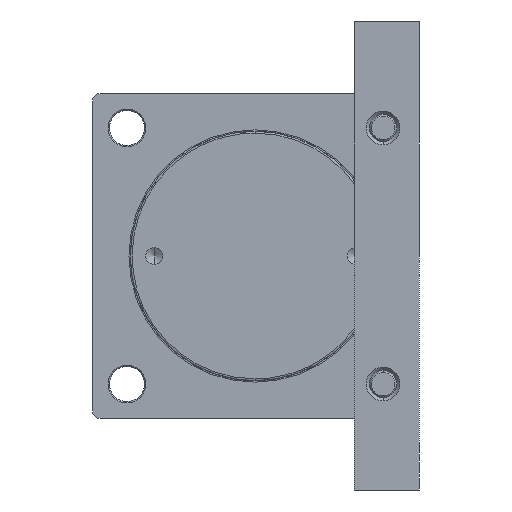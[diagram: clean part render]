
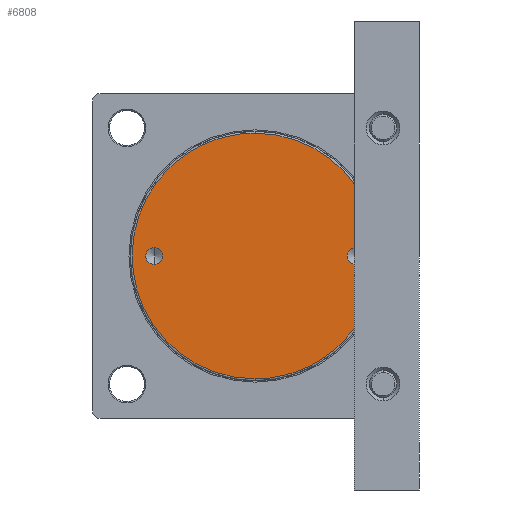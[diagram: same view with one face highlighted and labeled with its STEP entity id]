
A CAD part, left-side view. The second image highlights one B-rep face of the part: STEP entity #6808.
In plain terms, the highlighted planar face has unit normal (-1, 0, 0).
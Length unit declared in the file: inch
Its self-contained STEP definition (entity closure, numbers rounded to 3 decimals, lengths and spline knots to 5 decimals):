
#88 = FACE_OUTER_BOUND ( 'NONE', #7587, .T. ) ;
#131 = EDGE_CURVE ( 'NONE', #11683, #7028, #20767, .T. ) ;
#609 = ORIENTED_EDGE ( 'NONE', *, *, #6205, .F. ) ;
#1402 = CARTESIAN_POINT ( 'NONE',  ( -1.43701, 0., 3.72047 ) ) ;
#1562 = EDGE_CURVE ( 'NONE', #3129, #23443, #3095, .T. ) ;
#2251 = EDGE_LOOP ( 'NONE', ( #18383, #20205 ) ) ;
#2670 = CARTESIAN_POINT ( 'NONE',  ( -1.43701, 3.05118, 0. ) ) ;
#2969 = CARTESIAN_POINT ( 'NONE',  ( -1.43701, 3.05118, 0.25591 ) ) ;
#3095 = CIRCLE ( 'NONE', #9222, 0.25591 ) ;
#3129 = VERTEX_POINT ( 'NONE', #5990 ) ;
#4948 = DIRECTION ( 'NONE',  ( 0., 0., -1. ) ) ;
#4999 = DIRECTION ( 'NONE',  ( 1., 0., 0. ) ) ;
#5021 = CARTESIAN_POINT ( 'NONE',  ( -1.43701, 0., 0. ) ) ;
#5334 = VERTEX_POINT ( 'NONE', #22763 ) ;
#5981 = PLANE ( 'NONE',  #18717 ) ;
#5990 = CARTESIAN_POINT ( 'NONE',  ( -1.43701, 3.05118, -0.25591 ) ) ;
#6205 = EDGE_CURVE ( 'NONE', #23443, #3129, #9177, .T. ) ;
#6260 = VERTEX_POINT ( 'NONE', #12537 ) ;
#6808 = ADVANCED_FACE ( 'NONE', ( #9316, #10999, #88 ), #5981, .F. ) ;
#7028 = VERTEX_POINT ( 'NONE', #1402 ) ;
#7587 = EDGE_LOOP ( 'NONE', ( #15009, #19874 ) ) ;
#9177 = CIRCLE ( 'NONE', #13697, 0.25591 ) ;
#9222 = AXIS2_PLACEMENT_3D ( 'NONE', #2670, #23676, #23536 ) ;
#9316 = FACE_BOUND ( 'NONE', #18347, .T. ) ;
#10637 = EDGE_CURVE ( 'NONE', #6260, #5334, #19960, .T. ) ;
#10673 = EDGE_CURVE ( 'NONE', #7028, #11683, #20903, .T. ) ;
#10999 = FACE_BOUND ( 'NONE', #2251, .T. ) ;
#11683 = VERTEX_POINT ( 'NONE', #13981 ) ;
#12537 = CARTESIAN_POINT ( 'NONE',  ( -1.43701, -3.05118, 0.25591 ) ) ;
#12690 = DIRECTION ( 'NONE',  ( 0., 0., 1. ) ) ;
#12699 = DIRECTION ( 'NONE',  ( -1., 0., 0. ) ) ;
#12718 = CARTESIAN_POINT ( 'NONE',  ( -1.43701, 3.05118, 0. ) ) ;
#13697 = AXIS2_PLACEMENT_3D ( 'NONE', #12718, #12699, #12690 ) ;
#13981 = CARTESIAN_POINT ( 'NONE',  ( -1.43701, 0., -3.72047 ) ) ;
#15009 = ORIENTED_EDGE ( 'NONE', *, *, #131, .F. ) ;
#15477 = AXIS2_PLACEMENT_3D ( 'NONE', #23450, #23418, #23393 ) ;
#18057 = EDGE_CURVE ( 'NONE', #5334, #6260, #19705, .T. ) ;
#18084 = CARTESIAN_POINT ( 'NONE',  ( -1.43701, 7.44094, 3.72047 ) ) ;
#18115 = CARTESIAN_POINT ( 'NONE',  ( -1.43701, 7.44094, -3.72047 ) ) ;
#18143 = CARTESIAN_POINT ( 'NONE',  ( -1.43701, 0., -3.72047 ) ) ;
#18174 = CARTESIAN_POINT ( 'NONE',  ( -1.43701, 0., 3.72047 ) ) ;
#18347 = EDGE_LOOP ( 'NONE', ( #609, #23198 ) ) ;
#18383 = ORIENTED_EDGE ( 'NONE', *, *, #10637, .F. ) ;
#18717 = AXIS2_PLACEMENT_3D ( 'NONE', #5021, #4999, #4948 ) ;
#19705 = CIRCLE ( 'NONE', #21961, 0.25591 ) ;
#19874 = ORIENTED_EDGE ( 'NONE', *, *, #10673, .F. ) ;
#19960 = CIRCLE ( 'NONE', #15477, 0.25591 ) ;
#20205 = ORIENTED_EDGE ( 'NONE', *, *, #18057, .F. ) ;
#20767 =( BOUNDED_CURVE ( )  B_SPLINE_CURVE ( 3, ( #18143, #18115, #18084, #18174 ),
 .UNSPECIFIED., .F., .F. ) 
 B_SPLINE_CURVE_WITH_KNOTS ( ( 4, 4 ),
 ( 0., 1. ),
 .UNSPECIFIED. ) 
 CURVE ( )  GEOMETRIC_REPRESENTATION_ITEM ( )  RATIONAL_B_SPLINE_CURVE ( ( 1., 0.333, 0.333, 1. ) ) 
 REPRESENTATION_ITEM ( '' )  );
#20903 =( BOUNDED_CURVE ( )  B_SPLINE_CURVE ( 3, ( #23365, #23146, #23117, #23081 ),
 .UNSPECIFIED., .F., .F. ) 
 B_SPLINE_CURVE_WITH_KNOTS ( ( 4, 4 ),
 ( 0., 1. ),
 .UNSPECIFIED. ) 
 CURVE ( )  GEOMETRIC_REPRESENTATION_ITEM ( )  RATIONAL_B_SPLINE_CURVE ( ( 1., 0.333, 0.333, 1. ) ) 
 REPRESENTATION_ITEM ( '' )  );
#21961 = AXIS2_PLACEMENT_3D ( 'NONE', #22852, #22878, #22885 ) ;
#22763 = CARTESIAN_POINT ( 'NONE',  ( -1.43701, -3.05118, -0.25591 ) ) ;
#22852 = CARTESIAN_POINT ( 'NONE',  ( -1.43701, -3.05118, 0. ) ) ;
#22878 = DIRECTION ( 'NONE',  ( -1., 0., 0. ) ) ;
#22885 = DIRECTION ( 'NONE',  ( 0., 0., 1. ) ) ;
#23081 = CARTESIAN_POINT ( 'NONE',  ( -1.43701, 0., -3.72047 ) ) ;
#23117 = CARTESIAN_POINT ( 'NONE',  ( -1.43701, -7.44094, -3.72047 ) ) ;
#23146 = CARTESIAN_POINT ( 'NONE',  ( -1.43701, -7.44094, 3.72047 ) ) ;
#23198 = ORIENTED_EDGE ( 'NONE', *, *, #1562, .F. ) ;
#23365 = CARTESIAN_POINT ( 'NONE',  ( -1.43701, 0., 3.72047 ) ) ;
#23393 = DIRECTION ( 'NONE',  ( 0., 0., 1. ) ) ;
#23418 = DIRECTION ( 'NONE',  ( -1., 0., 0. ) ) ;
#23443 = VERTEX_POINT ( 'NONE', #2969 ) ;
#23450 = CARTESIAN_POINT ( 'NONE',  ( -1.43701, -3.05118, 0. ) ) ;
#23536 = DIRECTION ( 'NONE',  ( 0., 0., 1. ) ) ;
#23676 = DIRECTION ( 'NONE',  ( -1., 0., 0. ) ) ;
